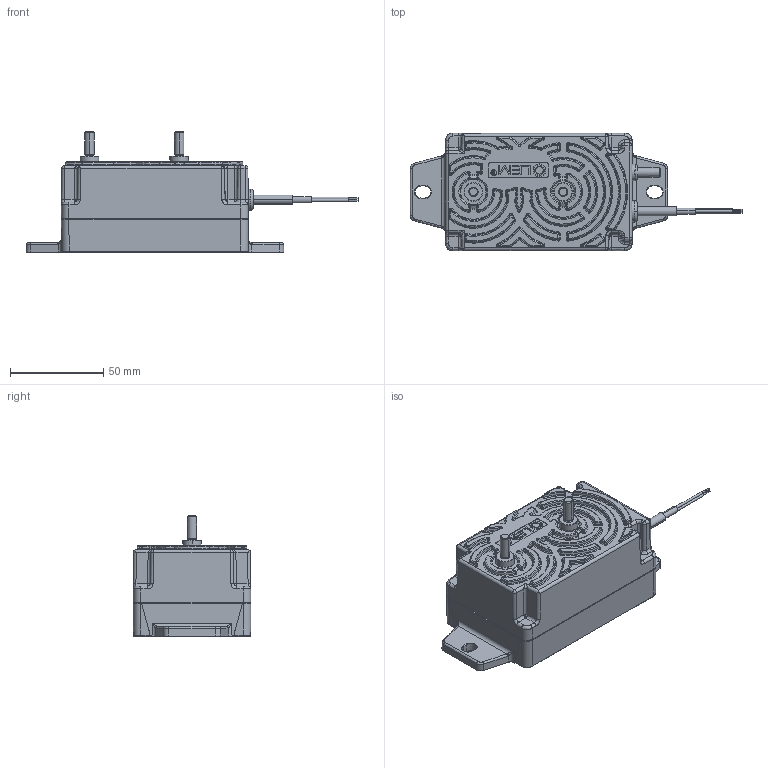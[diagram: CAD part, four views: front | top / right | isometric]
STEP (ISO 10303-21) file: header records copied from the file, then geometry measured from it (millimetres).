
FILE_DESCRIPTION(('CoCreate Modeling STEP Export'),'2;1');
FILE_NAME('DVL 1000_SP8.stp','2013-01-18T15:40:32',(''),(''),'CoCreate Modeling STEP processor for AP214 (Solid Model)','CoCreate Modeling 17.0B 09-Oct-2010 (C) Parametric Technology GmbH','');
FILE_SCHEMA(('AUTOMOTIVE_DESIGN { 1 0 10303 214 1 1 1 1 }'));
Products named in the file (1): BLACKBOX_DVL_ENCOMB_TYPE_F
Bounding box: 177.57 x 63.01 x 64.3 mm (x, y, z)
Volume: 293107 mm3; surface area: 35771.5 mm2
Topology: 1 solids, 1 shells, 1795 faces, 4367 edges, 2599 vertices
Faces by surface type: bspline 832, plane 431, cylinder 230, torus 161, cone 104, sphere 25, extrusion 12
Entity records: 113393 total; most frequent: CARTESIAN_POINT 79490, ORIENTED_EDGE 8652, EDGE_CURVE 4326, DIRECTION 4011, VERTEX_POINT 2599, EDGE_LOOP 1865, FACE_OUTER_BOUND 1795, ADVANCED_FACE 1795
